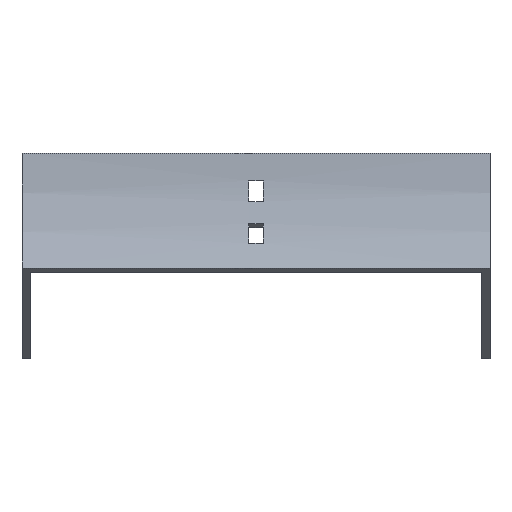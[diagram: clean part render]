
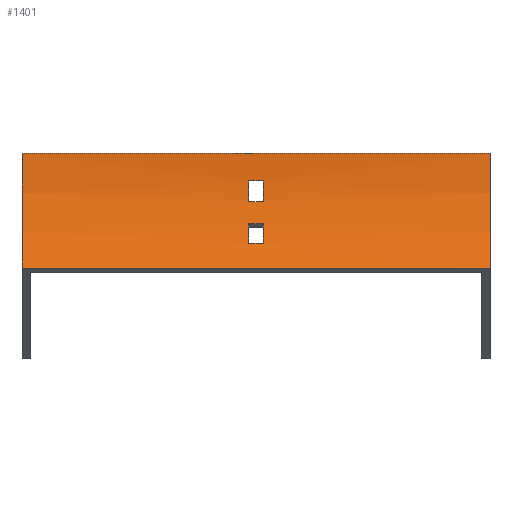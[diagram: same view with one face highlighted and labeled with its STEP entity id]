
A CAD part, front view. The second image highlights one B-rep face of the part: STEP entity #1401.
In plain terms, the highlighted cylindrical face has radius 100 mm (diameter 200 mm), a partial arc.
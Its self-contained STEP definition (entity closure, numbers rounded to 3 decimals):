
#8 = ORIENTED_EDGE ( 'NONE', *, *, #1425, .F. ) ;
#20 = VERTEX_POINT ( 'NONE', #1640 ) ;
#45 = ORIENTED_EDGE ( 'NONE', *, *, #1392, .T. ) ;
#54 = DIRECTION ( 'NONE',  ( -1., 0., 0. ) ) ;
#65 = LINE ( 'NONE', #614, #222 ) ;
#93 = CARTESIAN_POINT ( 'NONE',  ( -102., 0., 0. ) ) ;
#106 = CARTESIAN_POINT ( 'NONE',  ( -3.25, -8.023, -39.246 ) ) ;
#107 = CARTESIAN_POINT ( 'NONE',  ( -3.25, -100., 0. ) ) ;
#109 = CARTESIAN_POINT ( 'NONE',  ( 102., -100., 0. ) ) ;
#112 = VECTOR ( 'NONE', #1436, 1000. ) ;
#120 = DIRECTION ( 'NONE',  ( -1., 0., 0. ) ) ;
#121 = VERTEX_POINT ( 'NONE', #316 ) ;
#127 = VERTEX_POINT ( 'NONE', #1215 ) ;
#137 = CARTESIAN_POINT ( 'NONE',  ( 3.25, -100., 0. ) ) ;
#138 = CIRCLE ( 'NONE', #431, 100. ) ;
#193 = CYLINDRICAL_SURFACE ( 'NONE', #1633, 100. ) ;
#195 = VECTOR ( 'NONE', #1501, 1000. ) ;
#217 = CIRCLE ( 'NONE', #242, 100. ) ;
#222 = VECTOR ( 'NONE', #971, 1000. ) ;
#232 = EDGE_CURVE ( 'NONE', #1453, #1463, #217, .T. ) ;
#242 = AXIS2_PLACEMENT_3D ( 'NONE', #867, #1002, #608 ) ;
#251 = ORIENTED_EDGE ( 'NONE', *, *, #1562, .F. ) ;
#259 = DIRECTION ( 'NONE',  ( 1., 0., 0. ) ) ;
#278 = EDGE_LOOP ( 'NONE', ( #938, #8, #1360, #1231 ) ) ;
#298 = AXIS2_PLACEMENT_3D ( 'NONE', #109, #1019, #865 ) ;
#316 = CARTESIAN_POINT ( 'NONE',  ( -3.25, -0.723, -12. ) ) ;
#414 = EDGE_LOOP ( 'NONE', ( #746, #251, #1535, #1450 ) ) ;
#430 = FACE_BOUND ( 'NONE', #677, .T. ) ;
#431 = AXIS2_PLACEMENT_3D ( 'NONE', #137, #1031, #1198 ) ;
#463 = LINE ( 'NONE', #987, #195 ) ;
#487 = LINE ( 'NONE', #1047, #1178 ) ;
#494 = CARTESIAN_POINT ( 'NONE',  ( 102., -0.723, -12. ) ) ;
#518 = CIRCLE ( 'NONE', #1471, 100. ) ;
#539 = VERTEX_POINT ( 'NONE', #1615 ) ;
#568 = DIRECTION ( 'NONE',  ( 0., 0., 1. ) ) ;
#584 = EDGE_CURVE ( 'NONE', #1001, #1004, #1670, .T. ) ;
#591 = CIRCLE ( 'NONE', #1546, 100. ) ;
#608 = DIRECTION ( 'NONE',  ( 0., 0., 1. ) ) ;
#614 = CARTESIAN_POINT ( 'NONE',  ( 102., 0., 0. ) ) ;
#657 = AXIS2_PLACEMENT_3D ( 'NONE', #107, #1150, #1666 ) ;
#665 = ORIENTED_EDGE ( 'NONE', *, *, #1054, .T. ) ;
#677 = EDGE_LOOP ( 'NONE', ( #1020, #1342, #665, #45 ) ) ;
#679 = CARTESIAN_POINT ( 'NONE',  ( 3.25, -100., 0. ) ) ;
#688 = CIRCLE ( 'NONE', #657, 100. ) ;
#746 = ORIENTED_EDGE ( 'NONE', *, *, #232, .T. ) ;
#767 = EDGE_CURVE ( 'NONE', #1004, #1161, #138, .T. ) ;
#819 = LINE ( 'NONE', #1041, #112 ) ;
#839 = FACE_BOUND ( 'NONE', #278, .T. ) ;
#845 = CARTESIAN_POINT ( 'NONE',  ( 102., -100., 0. ) ) ;
#850 = CARTESIAN_POINT ( 'NONE',  ( 3.25, -0.723, -12. ) ) ;
#865 = DIRECTION ( 'NONE',  ( 0., 0., 1. ) ) ;
#867 = CARTESIAN_POINT ( 'NONE',  ( -102., -100., 0. ) ) ;
#878 = EDGE_CURVE ( 'NONE', #1322, #1001, #518, .T. ) ;
#892 = CARTESIAN_POINT ( 'NONE',  ( 3.25, -4.829, -30.699 ) ) ;
#938 = ORIENTED_EDGE ( 'NONE', *, *, #878, .F. ) ;
#971 = DIRECTION ( 'NONE',  ( -1., 0., 0. ) ) ;
#987 = CARTESIAN_POINT ( 'NONE',  ( 102., -13.397, -50. ) ) ;
#992 = LINE ( 'NONE', #494, #1614 ) ;
#1001 = VERTEX_POINT ( 'NONE', #106 ) ;
#1002 = DIRECTION ( 'NONE',  ( -1., 0., 0. ) ) ;
#1004 = VERTEX_POINT ( 'NONE', #1148 ) ;
#1013 = CIRCLE ( 'NONE', #298, 100. ) ;
#1019 = DIRECTION ( 'NONE',  ( -1., 0., 0. ) ) ;
#1020 = ORIENTED_EDGE ( 'NONE', *, *, #1587, .T. ) ;
#1031 = DIRECTION ( 'NONE',  ( 1., 0., 0. ) ) ;
#1041 = CARTESIAN_POINT ( 'NONE',  ( 102., -4.829, -30.699 ) ) ;
#1047 = CARTESIAN_POINT ( 'NONE',  ( 102., -2.23, -21. ) ) ;
#1050 = VERTEX_POINT ( 'NONE', #1255 ) ;
#1054 = EDGE_CURVE ( 'NONE', #121, #1455, #992, .T. ) ;
#1086 = DIRECTION ( 'NONE',  ( -1., 0., 0. ) ) ;
#1103 = EDGE_CURVE ( 'NONE', #1050, #539, #1013, .T. ) ;
#1139 = CARTESIAN_POINT ( 'NONE',  ( -102., -13.397, -50. ) ) ;
#1148 = CARTESIAN_POINT ( 'NONE',  ( 3.25, -8.023, -39.246 ) ) ;
#1150 = DIRECTION ( 'NONE',  ( 1., 0., 0. ) ) ;
#1161 = VERTEX_POINT ( 'NONE', #892 ) ;
#1178 = VECTOR ( 'NONE', #120, 1000. ) ;
#1198 = DIRECTION ( 'NONE',  ( 0., 0., 1. ) ) ;
#1215 = CARTESIAN_POINT ( 'NONE',  ( -3.25, -2.23, -21. ) ) ;
#1221 = CARTESIAN_POINT ( 'NONE',  ( -3.25, -4.829, -30.699 ) ) ;
#1231 = ORIENTED_EDGE ( 'NONE', *, *, #584, .F. ) ;
#1252 = EDGE_CURVE ( 'NONE', #127, #121, #688, .T. ) ;
#1255 = CARTESIAN_POINT ( 'NONE',  ( 102., 0., 0. ) ) ;
#1278 = DIRECTION ( 'NONE',  ( 1., 0., 0. ) ) ;
#1322 = VERTEX_POINT ( 'NONE', #1221 ) ;
#1335 = CARTESIAN_POINT ( 'NONE',  ( -3.25, -100., 0. ) ) ;
#1342 = ORIENTED_EDGE ( 'NONE', *, *, #1252, .T. ) ;
#1360 = ORIENTED_EDGE ( 'NONE', *, *, #767, .F. ) ;
#1389 = VECTOR ( 'NONE', #259, 1000. ) ;
#1392 = EDGE_CURVE ( 'NONE', #1455, #20, #591, .T. ) ;
#1401 = ADVANCED_FACE ( 'NONE', ( #1472, #430, #839 ), #193, .F. ) ;
#1425 = EDGE_CURVE ( 'NONE', #1161, #1322, #819, .T. ) ;
#1433 = CARTESIAN_POINT ( 'NONE',  ( 102., -8.023, -39.246 ) ) ;
#1436 = DIRECTION ( 'NONE',  ( -1., 0., 0. ) ) ;
#1450 = ORIENTED_EDGE ( 'NONE', *, *, #1527, .T. ) ;
#1453 = VERTEX_POINT ( 'NONE', #93 ) ;
#1455 = VERTEX_POINT ( 'NONE', #850 ) ;
#1463 = VERTEX_POINT ( 'NONE', #1139 ) ;
#1471 = AXIS2_PLACEMENT_3D ( 'NONE', #1335, #1086, #1604 ) ;
#1472 = FACE_OUTER_BOUND ( 'NONE', #414, .T. ) ;
#1501 = DIRECTION ( 'NONE',  ( -1., 0., 0. ) ) ;
#1527 = EDGE_CURVE ( 'NONE', #1050, #1453, #65, .T. ) ;
#1535 = ORIENTED_EDGE ( 'NONE', *, *, #1103, .F. ) ;
#1546 = AXIS2_PLACEMENT_3D ( 'NONE', #679, #1585, #1600 ) ;
#1562 = EDGE_CURVE ( 'NONE', #539, #1463, #463, .T. ) ;
#1585 = DIRECTION ( 'NONE',  ( -1., 0., 0. ) ) ;
#1587 = EDGE_CURVE ( 'NONE', #20, #127, #487, .T. ) ;
#1600 = DIRECTION ( 'NONE',  ( 0., 0., -1. ) ) ;
#1604 = DIRECTION ( 'NONE',  ( 0., 0., -1. ) ) ;
#1614 = VECTOR ( 'NONE', #1278, 1000. ) ;
#1615 = CARTESIAN_POINT ( 'NONE',  ( 102., -13.397, -50. ) ) ;
#1633 = AXIS2_PLACEMENT_3D ( 'NONE', #845, #54, #568 ) ;
#1640 = CARTESIAN_POINT ( 'NONE',  ( 3.25, -2.23, -21. ) ) ;
#1666 = DIRECTION ( 'NONE',  ( 0., 0., 1. ) ) ;
#1670 = LINE ( 'NONE', #1433, #1389 ) ;
